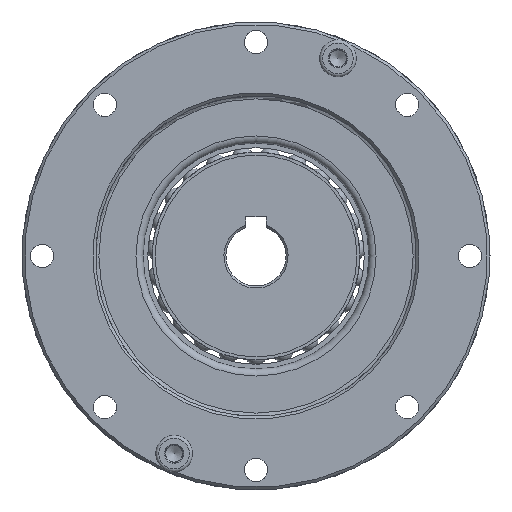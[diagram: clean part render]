
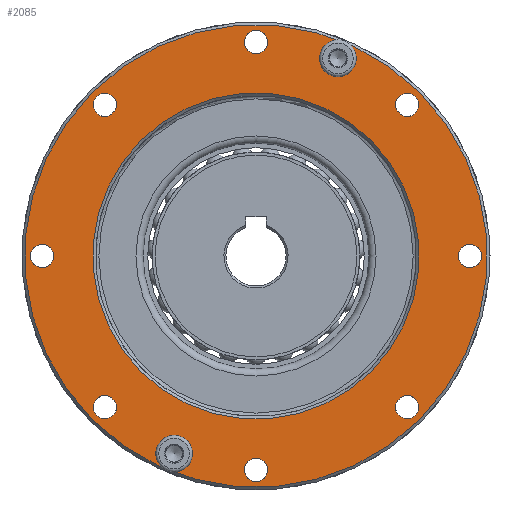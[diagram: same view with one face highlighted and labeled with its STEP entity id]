
A CAD part, left-side view. The second image highlights one B-rep face of the part: STEP entity #2085.
In plain terms, the highlighted planar face has unit normal (-1, 0, 0).
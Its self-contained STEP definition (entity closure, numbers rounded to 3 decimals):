
#2085=ADVANCED_FACE('',(#2893,#2894,#2895,#2896,#2897,#2898,#2899,#2900,
#2901,#2902,#2903,#2904),#2626,.T.);
#2626=PLANE('',#9080);
#2893=FACE_BOUND('',#3470,.T.);
#2894=FACE_BOUND('',#3471,.T.);
#2895=FACE_BOUND('',#3472,.T.);
#2896=FACE_BOUND('',#3473,.T.);
#2897=FACE_BOUND('',#3474,.T.);
#2898=FACE_BOUND('',#3475,.T.);
#2899=FACE_BOUND('',#3476,.T.);
#2900=FACE_BOUND('',#3477,.T.);
#2901=FACE_BOUND('',#3478,.T.);
#2902=FACE_BOUND('',#3479,.T.);
#2903=FACE_BOUND('',#3480,.T.);
#2904=FACE_BOUND('',#3481,.T.);
#3470=EDGE_LOOP('',(#4325));
#3471=EDGE_LOOP('',(#4326));
#3472=EDGE_LOOP('',(#4327));
#3473=EDGE_LOOP('',(#4328));
#3474=EDGE_LOOP('',(#4329));
#3475=EDGE_LOOP('',(#4330));
#3476=EDGE_LOOP('',(#4331));
#3477=EDGE_LOOP('',(#4332));
#3478=EDGE_LOOP('',(#4333));
#3479=EDGE_LOOP('',(#4334));
#3480=EDGE_LOOP('',(#4335));
#3481=EDGE_LOOP('',(#4336));
#4325=ORIENTED_EDGE('',*,*,#7348,.T.);
#4326=ORIENTED_EDGE('',*,*,#7350,.T.);
#4327=ORIENTED_EDGE('',*,*,#7352,.T.);
#4328=ORIENTED_EDGE('',*,*,#7354,.T.);
#4329=ORIENTED_EDGE('',*,*,#7356,.T.);
#4330=ORIENTED_EDGE('',*,*,#7358,.T.);
#4331=ORIENTED_EDGE('',*,*,#7360,.T.);
#4332=ORIENTED_EDGE('',*,*,#7362,.T.);
#4333=ORIENTED_EDGE('',*,*,#7364,.T.);
#4334=ORIENTED_EDGE('',*,*,#7366,.T.);
#4335=ORIENTED_EDGE('',*,*,#7372,.T.);
#4336=ORIENTED_EDGE('',*,*,#7369,.T.);
#6497=VERTEX_POINT('',#11960);
#6499=VERTEX_POINT('',#11965);
#6501=VERTEX_POINT('',#11970);
#6503=VERTEX_POINT('',#11975);
#6505=VERTEX_POINT('',#11980);
#6507=VERTEX_POINT('',#11985);
#6509=VERTEX_POINT('',#11990);
#6511=VERTEX_POINT('',#11995);
#6513=VERTEX_POINT('',#12000);
#6515=VERTEX_POINT('',#12005);
#6518=VERTEX_POINT('',#12013);
#6521=VERTEX_POINT('',#12020);
#7348=EDGE_CURVE('',#6497,#6497,#8475,.T.);
#7350=EDGE_CURVE('',#6499,#6499,#8477,.T.);
#7352=EDGE_CURVE('',#6501,#6501,#8479,.T.);
#7354=EDGE_CURVE('',#6503,#6503,#8481,.T.);
#7356=EDGE_CURVE('',#6505,#6505,#8483,.T.);
#7358=EDGE_CURVE('',#6507,#6507,#8485,.T.);
#7360=EDGE_CURVE('',#6509,#6509,#8487,.T.);
#7362=EDGE_CURVE('',#6511,#6511,#8489,.T.);
#7364=EDGE_CURVE('',#6513,#6513,#8491,.T.);
#7366=EDGE_CURVE('',#6515,#6515,#8493,.T.);
#7369=EDGE_CURVE('',#6518,#6518,#8496,.T.);
#7372=EDGE_CURVE('',#6521,#6521,#8499,.T.);
#8475=CIRCLE('',#9035,1.75);
#8477=CIRCLE('',#9038,1.75);
#8479=CIRCLE('',#9041,1.75);
#8481=CIRCLE('',#9044,1.75);
#8483=CIRCLE('',#9047,1.75);
#8485=CIRCLE('',#9050,1.75);
#8487=CIRCLE('',#9053,1.75);
#8489=CIRCLE('',#9056,1.75);
#8491=CIRCLE('',#9059,1.75);
#8493=CIRCLE('',#9062,1.75);
#8496=CIRCLE('',#9067,24.4);
#8499=CIRCLE('',#9071,34.6);
#9035=AXIS2_PLACEMENT_3D('',#11959,#10013,#10014);
#9038=AXIS2_PLACEMENT_3D('',#11964,#10019,#10020);
#9041=AXIS2_PLACEMENT_3D('',#11969,#10025,#10026);
#9044=AXIS2_PLACEMENT_3D('',#11974,#10031,#10032);
#9047=AXIS2_PLACEMENT_3D('',#11979,#10037,#10038);
#9050=AXIS2_PLACEMENT_3D('',#11984,#10043,#10044);
#9053=AXIS2_PLACEMENT_3D('',#11989,#10049,#10050);
#9056=AXIS2_PLACEMENT_3D('',#11994,#10055,#10056);
#9059=AXIS2_PLACEMENT_3D('',#11999,#10061,#10062);
#9062=AXIS2_PLACEMENT_3D('',#12004,#10067,#10068);
#9067=AXIS2_PLACEMENT_3D('',#12012,#10077,#10078);
#9071=AXIS2_PLACEMENT_3D('',#12019,#10085,#10086);
#9080=AXIS2_PLACEMENT_3D('',#12032,#10103,#10104);
#10013=DIRECTION('',(1.,0.,0.));
#10014=DIRECTION('',(0.,0.707,-0.707));
#10019=DIRECTION('',(1.,0.,0.));
#10020=DIRECTION('',(0.,0.707,-0.707));
#10025=DIRECTION('',(1.,0.,0.));
#10026=DIRECTION('',(0.,0.707,-0.707));
#10031=DIRECTION('',(1.,0.,0.));
#10032=DIRECTION('',(0.,0.707,-0.707));
#10037=DIRECTION('',(1.,0.,0.));
#10038=DIRECTION('',(0.,0.707,-0.707));
#10043=DIRECTION('',(1.,0.,0.));
#10044=DIRECTION('',(0.,0.707,-0.707));
#10049=DIRECTION('',(1.,0.,0.));
#10050=DIRECTION('',(0.,0.707,-0.707));
#10055=DIRECTION('',(1.,0.,0.));
#10056=DIRECTION('',(0.,0.707,-0.707));
#10061=DIRECTION('',(1.,0.,0.));
#10062=DIRECTION('',(0.,0.707,-0.707));
#10067=DIRECTION('',(1.,0.,0.));
#10068=DIRECTION('',(0.,0.707,-0.707));
#10077=DIRECTION('',(1.,0.,0.));
#10078=DIRECTION('',(0.,-0.707,0.707));
#10085=DIRECTION('',(-1.,0.,0.));
#10086=DIRECTION('',(0.,-0.707,0.707));
#10103=DIRECTION('',(-1.,0.,0.));
#10104=DIRECTION('',(0.,-0.707,0.707));
#11959=CARTESIAN_POINT('',(-23.5,12.246,-29.564));
#11960=CARTESIAN_POINT('',(-23.5,13.483,-30.802));
#11964=CARTESIAN_POINT('',(-23.5,-12.246,29.564));
#11965=CARTESIAN_POINT('',(-23.5,-11.008,28.327));
#11969=CARTESIAN_POINT('',(-23.5,32.,0.));
#11970=CARTESIAN_POINT('',(-23.5,33.237,-1.237));
#11974=CARTESIAN_POINT('',(-23.5,22.627,-22.627));
#11975=CARTESIAN_POINT('',(-23.5,23.865,-23.865));
#11979=CARTESIAN_POINT('',(-23.5,0.,-32.));
#11980=CARTESIAN_POINT('',(-23.5,1.237,-33.237));
#11984=CARTESIAN_POINT('',(-23.5,-22.627,-22.627));
#11985=CARTESIAN_POINT('',(-23.5,-21.39,-23.865));
#11989=CARTESIAN_POINT('',(-23.5,-32.,0.));
#11990=CARTESIAN_POINT('',(-23.5,-30.763,-1.237));
#11994=CARTESIAN_POINT('',(-23.5,-22.627,22.627));
#11995=CARTESIAN_POINT('',(-23.5,-21.39,21.39));
#11999=CARTESIAN_POINT('',(-23.5,0.,32.));
#12000=CARTESIAN_POINT('',(-23.5,1.237,30.763));
#12004=CARTESIAN_POINT('',(-23.5,22.627,22.627));
#12005=CARTESIAN_POINT('',(-23.5,23.865,21.39));
#12012=CARTESIAN_POINT('',(-23.5,0.,0.));
#12013=CARTESIAN_POINT('',(-23.5,-17.253,17.253));
#12019=CARTESIAN_POINT('',(-23.5,0.,0.));
#12020=CARTESIAN_POINT('',(-23.5,-24.466,24.466));
#12032=CARTESIAN_POINT('',(-23.5,16.971,16.971));
